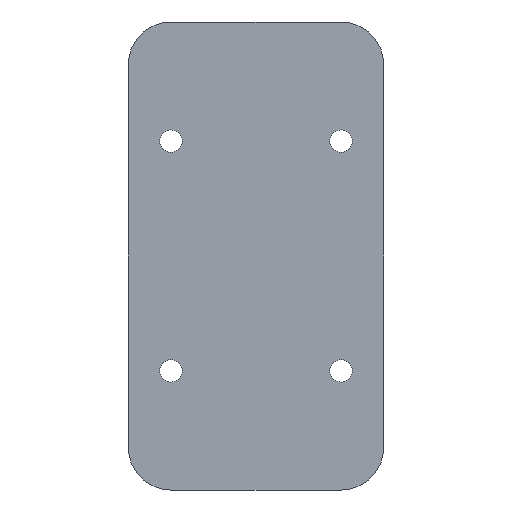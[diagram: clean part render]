
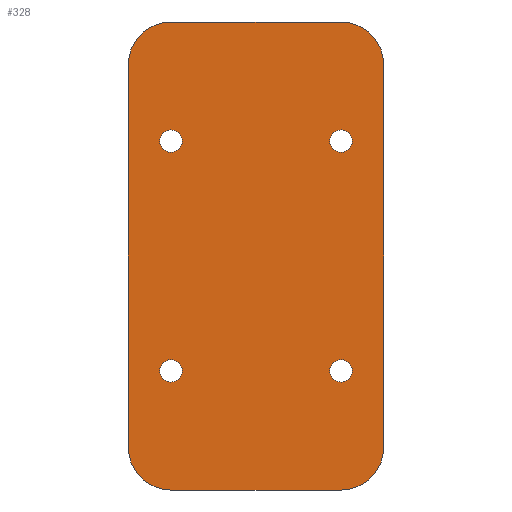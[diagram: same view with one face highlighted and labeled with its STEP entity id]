
A CAD part, front view. The second image highlights one B-rep face of the part: STEP entity #328.
In plain terms, the highlighted planar face has unit normal (0, -1, 0).
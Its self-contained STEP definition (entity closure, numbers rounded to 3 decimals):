
#1=CARTESIAN_POINT('',(20.,0.,45.));
#2=DIRECTION('',(0.,-1.,0.));
#3=DIRECTION('',(1.,0.,0.));
#4=AXIS2_PLACEMENT_3D('',#1,#2,#3);
#6=DIRECTION('',(0.,0.,-1.));
#7=VECTOR('',#6,90.);
#8=CARTESIAN_POINT('',(30.,0.,45.));
#9=LINE('',#8,#7);
#10=CARTESIAN_POINT('',(20.,0.,-45.));
#11=DIRECTION('',(0.,-1.,0.));
#12=DIRECTION('',(0.,0.,-1.));
#13=AXIS2_PLACEMENT_3D('',#10,#11,#12);
#15=DIRECTION('',(-1.,0.,0.));
#16=VECTOR('',#15,40.);
#17=CARTESIAN_POINT('',(20.,0.,-55.));
#18=LINE('',#17,#16);
#19=CARTESIAN_POINT('',(-20.,0.,-45.));
#20=DIRECTION('',(0.,-1.,0.));
#21=DIRECTION('',(-1.,0.,0.));
#22=AXIS2_PLACEMENT_3D('',#19,#20,#21);
#24=DIRECTION('',(0.,0.,1.));
#25=VECTOR('',#24,90.);
#26=CARTESIAN_POINT('',(-30.,0.,-45.));
#27=LINE('',#26,#25);
#28=CARTESIAN_POINT('',(-20.,0.,45.));
#29=DIRECTION('',(0.,-1.,0.));
#30=DIRECTION('',(0.,0.,1.));
#31=AXIS2_PLACEMENT_3D('',#28,#29,#30);
#33=DIRECTION('',(1.,0.,0.));
#34=VECTOR('',#33,40.);
#35=CARTESIAN_POINT('',(-20.,0.,55.));
#36=LINE('',#35,#34);
#37=CARTESIAN_POINT('',(-20.,0.,-27.));
#38=DIRECTION('',(0.,1.,0.));
#39=DIRECTION('',(1.,0.,0.));
#40=AXIS2_PLACEMENT_3D('',#37,#38,#39);
#42=CARTESIAN_POINT('',(-20.,0.,-27.));
#43=DIRECTION('',(0.,1.,0.));
#44=DIRECTION('',(-1.,0.,0.));
#45=AXIS2_PLACEMENT_3D('',#42,#43,#44);
#47=CARTESIAN_POINT('',(-20.,0.,27.));
#48=DIRECTION('',(0.,1.,0.));
#49=DIRECTION('',(1.,0.,0.));
#50=AXIS2_PLACEMENT_3D('',#47,#48,#49);
#52=CARTESIAN_POINT('',(-20.,0.,27.));
#53=DIRECTION('',(0.,1.,0.));
#54=DIRECTION('',(-1.,0.,0.));
#55=AXIS2_PLACEMENT_3D('',#52,#53,#54);
#57=CARTESIAN_POINT('',(20.,0.,-27.));
#58=DIRECTION('',(0.,1.,0.));
#59=DIRECTION('',(1.,0.,0.));
#60=AXIS2_PLACEMENT_3D('',#57,#58,#59);
#62=CARTESIAN_POINT('',(20.,0.,-27.));
#63=DIRECTION('',(0.,1.,0.));
#64=DIRECTION('',(-1.,0.,0.));
#65=AXIS2_PLACEMENT_3D('',#62,#63,#64);
#67=CARTESIAN_POINT('',(20.,0.,27.));
#68=DIRECTION('',(0.,1.,0.));
#69=DIRECTION('',(1.,0.,0.));
#70=AXIS2_PLACEMENT_3D('',#67,#68,#69);
#72=CARTESIAN_POINT('',(20.,0.,27.));
#73=DIRECTION('',(0.,1.,0.));
#74=DIRECTION('',(-1.,0.,0.));
#75=AXIS2_PLACEMENT_3D('',#72,#73,#74);
#217=CARTESIAN_POINT('',(-17.35,0.,-27.));
#218=CARTESIAN_POINT('',(-22.65,0.,-27.));
#219=VERTEX_POINT('',#217);
#220=VERTEX_POINT('',#218);
#225=CARTESIAN_POINT('',(-17.35,0.,27.));
#226=CARTESIAN_POINT('',(-22.65,0.,27.));
#227=VERTEX_POINT('',#225);
#228=VERTEX_POINT('',#226);
#233=CARTESIAN_POINT('',(30.,0.,45.));
#234=CARTESIAN_POINT('',(20.,0.,55.));
#235=VERTEX_POINT('',#233);
#236=VERTEX_POINT('',#234);
#241=CARTESIAN_POINT('',(-20.,0.,55.));
#242=CARTESIAN_POINT('',(-30.,0.,45.));
#243=VERTEX_POINT('',#241);
#244=VERTEX_POINT('',#242);
#249=CARTESIAN_POINT('',(-30.,0.,-45.));
#250=CARTESIAN_POINT('',(-20.,0.,-55.));
#251=VERTEX_POINT('',#249);
#252=VERTEX_POINT('',#250);
#257=CARTESIAN_POINT('',(20.,0.,-55.));
#258=CARTESIAN_POINT('',(30.,0.,-45.));
#259=VERTEX_POINT('',#257);
#260=VERTEX_POINT('',#258);
#265=CARTESIAN_POINT('',(22.65,0.,-27.));
#266=CARTESIAN_POINT('',(17.35,0.,-27.));
#267=VERTEX_POINT('',#265);
#268=VERTEX_POINT('',#266);
#273=CARTESIAN_POINT('',(22.65,0.,27.));
#274=CARTESIAN_POINT('',(17.35,0.,27.));
#275=VERTEX_POINT('',#273);
#276=VERTEX_POINT('',#274);
#281=CARTESIAN_POINT('',(0.,0.,0.));
#282=DIRECTION('',(0.,1.,0.));
#283=DIRECTION('',(1.,0.,0.));
#284=AXIS2_PLACEMENT_3D('',#281,#282,#283);
#285=PLANE('',#284);
#287=ORIENTED_EDGE('',*,*,#286,.F.);
#289=ORIENTED_EDGE('',*,*,#288,.T.);
#291=ORIENTED_EDGE('',*,*,#290,.F.);
#293=ORIENTED_EDGE('',*,*,#292,.T.);
#295=ORIENTED_EDGE('',*,*,#294,.F.);
#297=ORIENTED_EDGE('',*,*,#296,.T.);
#299=ORIENTED_EDGE('',*,*,#298,.F.);
#301=ORIENTED_EDGE('',*,*,#300,.T.);
#302=EDGE_LOOP('',(#287,#289,#291,#293,#295,#297,#299,#301));
#303=FACE_OUTER_BOUND('',#302,.F.);
#305=ORIENTED_EDGE('',*,*,#304,.F.);
#307=ORIENTED_EDGE('',*,*,#306,.F.);
#308=EDGE_LOOP('',(#305,#307));
#309=FACE_BOUND('',#308,.F.);
#311=ORIENTED_EDGE('',*,*,#310,.F.);
#313=ORIENTED_EDGE('',*,*,#312,.F.);
#314=EDGE_LOOP('',(#311,#313));
#315=FACE_BOUND('',#314,.F.);
#317=ORIENTED_EDGE('',*,*,#316,.F.);
#319=ORIENTED_EDGE('',*,*,#318,.F.);
#320=EDGE_LOOP('',(#317,#319));
#321=FACE_BOUND('',#320,.F.);
#323=ORIENTED_EDGE('',*,*,#322,.F.);
#325=ORIENTED_EDGE('',*,*,#324,.F.);
#326=EDGE_LOOP('',(#323,#325));
#327=FACE_BOUND('',#326,.F.);
#328=ADVANCED_FACE('',(#303,#309,#315,#321,#327),#285,.F.);
#5=CIRCLE('',#4,10.);
#14=CIRCLE('',#13,10.);
#23=CIRCLE('',#22,10.);
#32=CIRCLE('',#31,10.);
#41=CIRCLE('',#40,2.65);
#46=CIRCLE('',#45,2.65);
#51=CIRCLE('',#50,2.65);
#56=CIRCLE('',#55,2.65);
#61=CIRCLE('',#60,2.65);
#66=CIRCLE('',#65,2.65);
#71=CIRCLE('',#70,2.65);
#76=CIRCLE('',#75,2.65);
#286=EDGE_CURVE('',#235,#236,#5,.T.);
#288=EDGE_CURVE('',#235,#260,#9,.T.);
#290=EDGE_CURVE('',#259,#260,#14,.T.);
#292=EDGE_CURVE('',#259,#252,#18,.T.);
#294=EDGE_CURVE('',#251,#252,#23,.T.);
#296=EDGE_CURVE('',#251,#244,#27,.T.);
#298=EDGE_CURVE('',#243,#244,#32,.T.);
#300=EDGE_CURVE('',#243,#236,#36,.T.);
#304=EDGE_CURVE('',#219,#220,#41,.T.);
#306=EDGE_CURVE('',#220,#219,#46,.T.);
#310=EDGE_CURVE('',#227,#228,#51,.T.);
#312=EDGE_CURVE('',#228,#227,#56,.T.);
#316=EDGE_CURVE('',#267,#268,#61,.T.);
#318=EDGE_CURVE('',#268,#267,#66,.T.);
#322=EDGE_CURVE('',#275,#276,#71,.T.);
#324=EDGE_CURVE('',#276,#275,#76,.T.);
